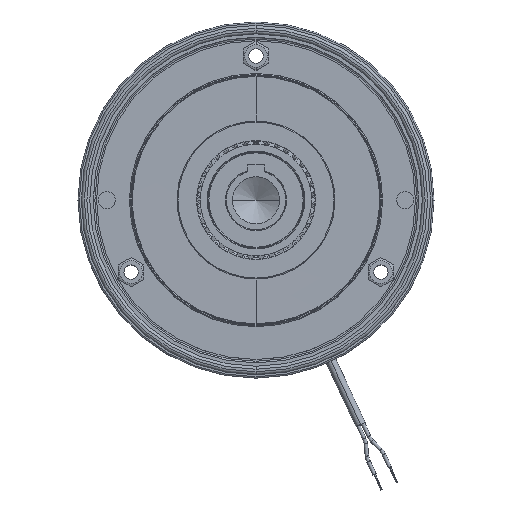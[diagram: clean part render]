
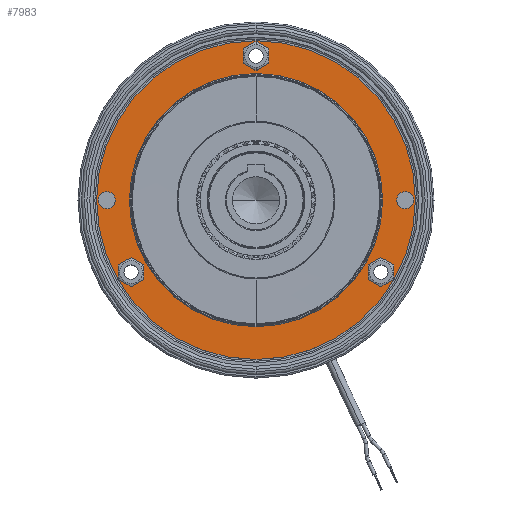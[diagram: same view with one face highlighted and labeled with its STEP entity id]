
A CAD part, top view. The second image highlights one B-rep face of the part: STEP entity #7983.
In plain terms, the highlighted planar face has unit normal (0, 0, 1).
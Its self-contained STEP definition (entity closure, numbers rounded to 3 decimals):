
#561 = CARTESIAN_POINT ( 'NONE',  ( 73.612, -42.5, 12.5 ) ) ;
#611 = AXIS2_PLACEMENT_3D ( 'NONE', #10784, #29363, #2335 ) ;
#674 = VERTEX_POINT ( 'NONE', #32698 ) ;
#716 = AXIS2_PLACEMENT_3D ( 'NONE', #25525, #30948, #27967 ) ;
#805 = VERTEX_POINT ( 'NONE', #2590 ) ;
#1076 = AXIS2_PLACEMENT_3D ( 'NONE', #9891, #20689, #28439 ) ;
#1626 = ORIENTED_EDGE ( 'NONE', *, *, #16576, .F. ) ;
#1657 = ORIENTED_EDGE ( 'NONE', *, *, #14048, .T. ) ;
#1738 = DIRECTION ( 'NONE',  ( 1., 0., 0. ) ) ;
#2165 = EDGE_CURVE ( 'NONE', #26334, #15821, #30505, .T. ) ;
#2322 = CARTESIAN_POINT ( 'NONE',  ( 83., 0., 12.5 ) ) ;
#2335 = DIRECTION ( 'NONE',  ( 1., 0., 0. ) ) ;
#2590 = CARTESIAN_POINT ( 'NONE',  ( -93., 0., 12.5 ) ) ;
#3122 = EDGE_LOOP ( 'NONE', ( #13359, #32270 ) ) ;
#4141 = DIRECTION ( 'NONE',  ( 1., 0., 0. ) ) ;
#4584 = AXIS2_PLACEMENT_3D ( 'NONE', #10834, #21502, #7707 ) ;
#4670 = CARTESIAN_POINT ( 'NONE',  ( 0., 85., 12.5 ) ) ;
#4838 = EDGE_LOOP ( 'NONE', ( #1657, #11268 ) ) ;
#5042 = EDGE_LOOP ( 'NONE', ( #23469, #9658 ) ) ;
#5187 = CIRCLE ( 'NONE', #17482, 5. ) ;
#5311 = ORIENTED_EDGE ( 'NONE', *, *, #30115, .F. ) ;
#5328 = VERTEX_POINT ( 'NONE', #17485 ) ;
#5826 = EDGE_CURVE ( 'NONE', #674, #7646, #17147, .T. ) ;
#6070 = DIRECTION ( 'NONE',  ( 0., 0., 1. ) ) ;
#6309 = CIRCLE ( 'NONE', #15218, 5. ) ;
#6364 = ORIENTED_EDGE ( 'NONE', *, *, #15089, .F. ) ;
#6556 = CARTESIAN_POINT ( 'NONE',  ( 7.25, 85., 12.5 ) ) ;
#6645 = DIRECTION ( 'NONE',  ( 0., 0., 1. ) ) ;
#6901 = CARTESIAN_POINT ( 'NONE',  ( -73.612, -42.5, 12.5 ) ) ;
#7054 = DIRECTION ( 'NONE',  ( 0., 0., 1. ) ) ;
#7068 = VERTEX_POINT ( 'NONE', #20933 ) ;
#7129 = EDGE_CURVE ( 'NONE', #7646, #674, #14194, .T. ) ;
#7646 = VERTEX_POINT ( 'NONE', #20797 ) ;
#7707 = DIRECTION ( 'NONE',  ( 1., 0., 0. ) ) ;
#7805 = FACE_OUTER_BOUND ( 'NONE', #4838, .T. ) ;
#7983 = ADVANCED_FACE ( 'NONE', ( #18146, #23768, #10446, #31812, #28854, #7805, #20402 ), #12707, .F. ) ;
#8405 = CARTESIAN_POINT ( 'NONE',  ( 0., 0., 12.5 ) ) ;
#9264 = CIRCLE ( 'NONE', #24948, 5. ) ;
#9658 = ORIENTED_EDGE ( 'NONE', *, *, #34390, .F. ) ;
#9891 = CARTESIAN_POINT ( 'NONE',  ( 0., 0., 12.5 ) ) ;
#10404 = EDGE_CURVE ( 'NONE', #15821, #26334, #30783, .T. ) ;
#10446 = FACE_BOUND ( 'NONE', #14998, .T. ) ;
#10784 = CARTESIAN_POINT ( 'NONE',  ( -88., 0., 12.5 ) ) ;
#10834 = CARTESIAN_POINT ( 'NONE',  ( 0., 0., 12.5 ) ) ;
#10989 = AXIS2_PLACEMENT_3D ( 'NONE', #11311, #27431, #30066 ) ;
#11268 = ORIENTED_EDGE ( 'NONE', *, *, #29988, .T. ) ;
#11311 = CARTESIAN_POINT ( 'NONE',  ( 73.612, -42.5, 12.5 ) ) ;
#11527 = CARTESIAN_POINT ( 'NONE',  ( 88., 0., 12.5 ) ) ;
#11556 = CIRCLE ( 'NONE', #18795, 7.25 ) ;
#12138 = DIRECTION ( 'NONE',  ( 1., 0., 0. ) ) ;
#12217 = DIRECTION ( 'NONE',  ( 0., 0., 1. ) ) ;
#12559 = EDGE_LOOP ( 'NONE', ( #31303, #23498 ) ) ;
#12707 = PLANE ( 'NONE',  #13077 ) ;
#12938 = CIRCLE ( 'NONE', #1076, 94. ) ;
#13077 = AXIS2_PLACEMENT_3D ( 'NONE', #31124, #28492, #34076 ) ;
#13359 = ORIENTED_EDGE ( 'NONE', *, *, #2165, .F. ) ;
#13701 = EDGE_CURVE ( 'NONE', #34559, #26813, #19050, .T. ) ;
#13874 = CARTESIAN_POINT ( 'NONE',  ( 93., 0., 12.5 ) ) ;
#14048 = EDGE_CURVE ( 'NONE', #7068, #18342, #12938, .T. ) ;
#14194 = CIRCLE ( 'NONE', #21455, 7.25 ) ;
#14997 = DIRECTION ( 'NONE',  ( 1., 0., 0. ) ) ;
#14998 = EDGE_LOOP ( 'NONE', ( #1626, #20418 ) ) ;
#15089 = EDGE_CURVE ( 'NONE', #26813, #34559, #33713, .T. ) ;
#15178 = CARTESIAN_POINT ( 'NONE',  ( -88., 0., 12.5 ) ) ;
#15218 = AXIS2_PLACEMENT_3D ( 'NONE', #15178, #20429, #33772 ) ;
#15821 = VERTEX_POINT ( 'NONE', #25299 ) ;
#15899 = EDGE_CURVE ( 'NONE', #21851, #26936, #9264, .T. ) ;
#16330 = ORIENTED_EDGE ( 'NONE', *, *, #33537, .F. ) ;
#16576 = EDGE_CURVE ( 'NONE', #18215, #5328, #11556, .T. ) ;
#16842 = AXIS2_PLACEMENT_3D ( 'NONE', #23095, #12217, #4141 ) ;
#16873 = CIRCLE ( 'NONE', #30317, 94. ) ;
#17147 = CIRCLE ( 'NONE', #10989, 7.25 ) ;
#17482 = AXIS2_PLACEMENT_3D ( 'NONE', #11527, #6070, #19209 ) ;
#17485 = CARTESIAN_POINT ( 'NONE',  ( -80.862, -42.5, 12.5 ) ) ;
#18146 = FACE_BOUND ( 'NONE', #5042, .T. ) ;
#18215 = VERTEX_POINT ( 'NONE', #32161 ) ;
#18342 = VERTEX_POINT ( 'NONE', #25831 ) ;
#18795 = AXIS2_PLACEMENT_3D ( 'NONE', #6901, #25484, #12138 ) ;
#19050 = CIRCLE ( 'NONE', #16842, 74. ) ;
#19209 = DIRECTION ( 'NONE',  ( 1., 0., 0. ) ) ;
#19583 = AXIS2_PLACEMENT_3D ( 'NONE', #20259, #6645, #14997 ) ;
#19637 = VERTEX_POINT ( 'NONE', #23326 ) ;
#20259 = CARTESIAN_POINT ( 'NONE',  ( 0., 85., 12.5 ) ) ;
#20402 = FACE_BOUND ( 'NONE', #12559, .T. ) ;
#20418 = ORIENTED_EDGE ( 'NONE', *, *, #30441, .F. ) ;
#20429 = DIRECTION ( 'NONE',  ( 0., 0., 1. ) ) ;
#20689 = DIRECTION ( 'NONE',  ( 0., 0., 1. ) ) ;
#20776 = DIRECTION ( 'NONE',  ( 1., 0., 0. ) ) ;
#20797 = CARTESIAN_POINT ( 'NONE',  ( 80.862, -42.5, 12.5 ) ) ;
#20933 = CARTESIAN_POINT ( 'NONE',  ( 94., 0., 12.5 ) ) ;
#20954 = CARTESIAN_POINT ( 'NONE',  ( 74., 0., 12.5 ) ) ;
#21010 = DIRECTION ( 'NONE',  ( 1., 0., 0. ) ) ;
#21455 = AXIS2_PLACEMENT_3D ( 'NONE', #561, #33015, #32846 ) ;
#21502 = DIRECTION ( 'NONE',  ( 0., 0., 1. ) ) ;
#21851 = VERTEX_POINT ( 'NONE', #13874 ) ;
#23095 = CARTESIAN_POINT ( 'NONE',  ( 0., 0., 12.5 ) ) ;
#23326 = CARTESIAN_POINT ( 'NONE',  ( -83., 0., 12.5 ) ) ;
#23469 = ORIENTED_EDGE ( 'NONE', *, *, #15899, .F. ) ;
#23498 = ORIENTED_EDGE ( 'NONE', *, *, #5826, .F. ) ;
#23602 = CIRCLE ( 'NONE', #611, 5. ) ;
#23768 = FACE_BOUND ( 'NONE', #29763, .T. ) ;
#24948 = AXIS2_PLACEMENT_3D ( 'NONE', #31063, #7054, #1738 ) ;
#25299 = CARTESIAN_POINT ( 'NONE',  ( -7.25, 85., 12.5 ) ) ;
#25332 = EDGE_LOOP ( 'NONE', ( #31385, #6364 ) ) ;
#25476 = AXIS2_PLACEMENT_3D ( 'NONE', #4670, #28511, #20776 ) ;
#25484 = DIRECTION ( 'NONE',  ( 0., 0., 1. ) ) ;
#25525 = CARTESIAN_POINT ( 'NONE',  ( -73.612, -42.5, 12.5 ) ) ;
#25831 = CARTESIAN_POINT ( 'NONE',  ( -94., 0., 12.5 ) ) ;
#26334 = VERTEX_POINT ( 'NONE', #6556 ) ;
#26813 = VERTEX_POINT ( 'NONE', #31113 ) ;
#26936 = VERTEX_POINT ( 'NONE', #2322 ) ;
#27431 = DIRECTION ( 'NONE',  ( 0., 0., 1. ) ) ;
#27967 = DIRECTION ( 'NONE',  ( 1., 0., 0. ) ) ;
#28439 = DIRECTION ( 'NONE',  ( 1., 0., 0. ) ) ;
#28492 = DIRECTION ( 'NONE',  ( 0., 0., -1. ) ) ;
#28511 = DIRECTION ( 'NONE',  ( 0., 0., 1. ) ) ;
#28854 = FACE_BOUND ( 'NONE', #25332, .T. ) ;
#29363 = DIRECTION ( 'NONE',  ( 0., 0., 1. ) ) ;
#29763 = EDGE_LOOP ( 'NONE', ( #16330, #5311 ) ) ;
#29861 = CIRCLE ( 'NONE', #716, 7.25 ) ;
#29988 = EDGE_CURVE ( 'NONE', #18342, #7068, #16873, .T. ) ;
#30066 = DIRECTION ( 'NONE',  ( 1., 0., 0. ) ) ;
#30115 = EDGE_CURVE ( 'NONE', #805, #19637, #6309, .T. ) ;
#30317 = AXIS2_PLACEMENT_3D ( 'NONE', #8405, #31886, #21010 ) ;
#30441 = EDGE_CURVE ( 'NONE', #5328, #18215, #29861, .T. ) ;
#30505 = CIRCLE ( 'NONE', #25476, 7.25 ) ;
#30783 = CIRCLE ( 'NONE', #19583, 7.25 ) ;
#30948 = DIRECTION ( 'NONE',  ( 0., 0., 1. ) ) ;
#31063 = CARTESIAN_POINT ( 'NONE',  ( 88., 0., 12.5 ) ) ;
#31113 = CARTESIAN_POINT ( 'NONE',  ( -74., 0., 12.5 ) ) ;
#31124 = CARTESIAN_POINT ( 'NONE',  ( 0., 94., 12.5 ) ) ;
#31303 = ORIENTED_EDGE ( 'NONE', *, *, #7129, .F. ) ;
#31385 = ORIENTED_EDGE ( 'NONE', *, *, #13701, .F. ) ;
#31812 = FACE_BOUND ( 'NONE', #3122, .T. ) ;
#31886 = DIRECTION ( 'NONE',  ( 0., 0., 1. ) ) ;
#32161 = CARTESIAN_POINT ( 'NONE',  ( -66.362, -42.5, 12.5 ) ) ;
#32270 = ORIENTED_EDGE ( 'NONE', *, *, #10404, .F. ) ;
#32698 = CARTESIAN_POINT ( 'NONE',  ( 66.362, -42.5, 12.5 ) ) ;
#32846 = DIRECTION ( 'NONE',  ( 1., 0., 0. ) ) ;
#33015 = DIRECTION ( 'NONE',  ( 0., 0., 1. ) ) ;
#33537 = EDGE_CURVE ( 'NONE', #19637, #805, #23602, .T. ) ;
#33713 = CIRCLE ( 'NONE', #4584, 74. ) ;
#33772 = DIRECTION ( 'NONE',  ( 1., 0., 0. ) ) ;
#34076 = DIRECTION ( 'NONE',  ( -1., 0., 0. ) ) ;
#34390 = EDGE_CURVE ( 'NONE', #26936, #21851, #5187, .T. ) ;
#34559 = VERTEX_POINT ( 'NONE', #20954 ) ;
